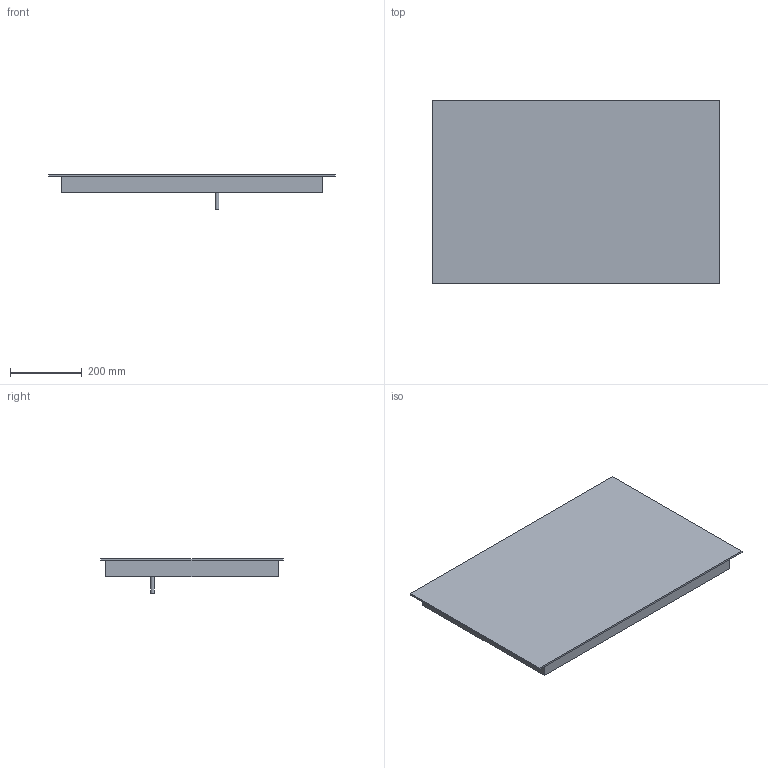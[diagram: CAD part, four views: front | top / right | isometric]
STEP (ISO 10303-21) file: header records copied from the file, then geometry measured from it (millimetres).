
FILE_DESCRIPTION((''),'2;1');
FILE_NAME('C:/Users/giulio.guaraldi/Desktop/SIM3844D.stp', '2023-07-26T07:07:50',(''), (''), 'KCM Version 2.0.6974.6974', 'KeyCreator Pro', '');
FILE_SCHEMA(('AUTOMOTIVE_DESIGN'));
Length unit declared in the file: millimetre
Bounding box: 800 x 510 x 95 mm (x, y, z)
Volume: 17811534.3 mm3; surface area: 939413.7 mm2
Topology: 1 solids, 1 shells, 13 faces, 36 edges, 35 vertices
Faces by surface type: plane 12, cylinder 1
Full cylindrical faces by diameter (mm): 10 x1
Entity records: 469 total; most frequent: CARTESIAN_POINT 68, DIRECTION 67, ORIENTED_EDGE 54, VECTOR 33, LINE 33, EDGE_CURVE 27, VERTEX_POINT 18, AXIS2_PLACEMENT_3D 17
